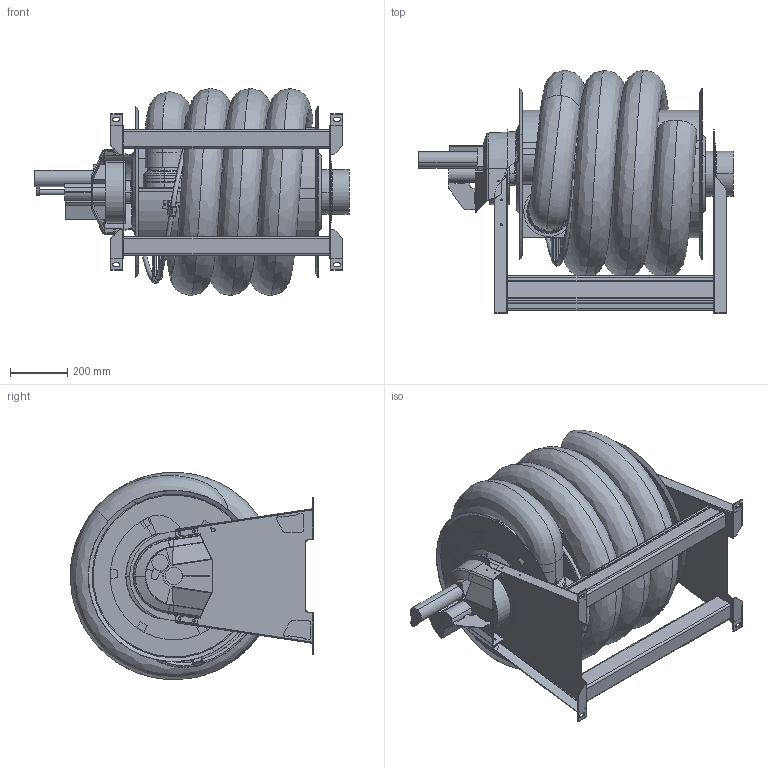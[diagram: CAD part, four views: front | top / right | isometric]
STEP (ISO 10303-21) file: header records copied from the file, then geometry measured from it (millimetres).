
FILE_DESCRIPTION((''),'2;1');
FILE_NAME('ASEM_65_125-7_5','2022-04-20T15:06:14',('Tomas Bellgran'),(''),'CREO PARAMETRIC BY PTC INC, 2018260','CREO PARAMETRIC BY PTC INC, 2018260','');
FILE_SCHEMA(('AUTOMOTIVE_DESIGN { 1 0 10303 214 1 1 1 1 }'));
Length unit declared in the file: millimetre
Products named in the file (27): 110534; 110536; 110801; 111736; 111735; 110561; 112850; 110528; 110591; 110651; G_ASE_DUMMY; 124129; G_ASL-EVO_150CON_BRACKET; GUIDE_125; 110660; 124297; ASEM_DRUM_65_125; AG_HOSE_125_140_75; 143740; 143700; 143550; 144299; 143702; 144230; 111192_NEW; 104504_L; ASEM_65_125-7_5
Assembly tree (30 placements, depth 4):
  ASEM_65_125-7_5
    110561
      110534
      110536
      110801  x2
      111736
      111735
    112850  x2
    ASEM_DRUM_65_125
      110528  x2
      110591
      110651
      G_ASL-EVO_150CON_BRACKET
        G_ASE_DUMMY
        124129
      GUIDE_125
      110660  x2
      124297
    AG_HOSE_125_140_75
    104504_L
      143740
      143702
        143700
        143550
        144299
      144230
      111192_NEW
Bounding box: 1102 x 853.5 x 726.87 mm (x, y, z)
Volume: 201546875.8 mm3; surface area: 9446584.6 mm2
Topology: 25 solids, 28 shells, 1058 faces, 2483 edges, 1488 vertices
Faces by surface type: plane 544, cylinder 325, bspline 85, torus 72, cone 32
Entity records: 49903 total; most frequent: CARTESIAN_POINT 14512, DIRECTION 4652, ORIENTED_EDGE 4082, EDGE_CURVE 2045, AXIS2_PLACEMENT_3D 1661, PRESENTATION_STYLE_ASSIGNMENT 1639, STYLED_ITEM 1638, PROPERTY_DEFINITION 1432
